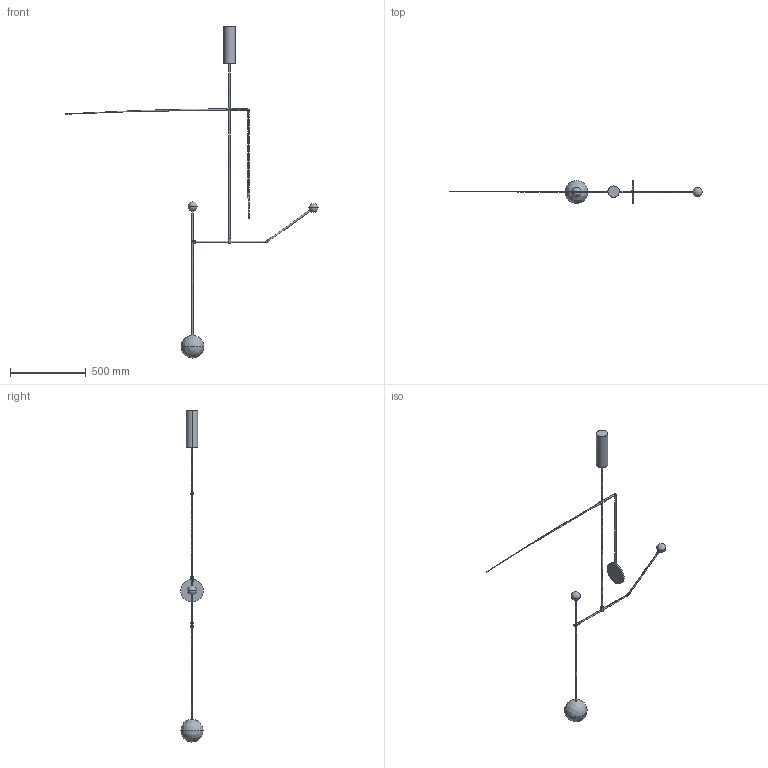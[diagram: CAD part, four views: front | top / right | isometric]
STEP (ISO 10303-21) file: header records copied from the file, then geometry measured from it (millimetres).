
FILE_DESCRIPTION(/* description */ (''),/* implementation_level */ '2;1');
FILE_NAME(/* name */ 'MA - Mobile Chandelier 6 - 240V',/* time_stamp */ '2015-06-03T11:50:32+01:00',/* author */ (''),/* organization */ (''),/* preprocessor_version */ 'ST-DEVELOPER v15',/* originating_system */ '',/* authorisation */ '');
FILE_SCHEMA (('CONFIG_CONTROL_DESIGN'));
Length unit declared in the file: millimetre
Products named in the file (1): Document
Bounding box: 1662.15 x 151.22 x 2189.06 mm (x, y, z)
Surface area: 333860.2 mm2 (no closed solid volume)
Topology: 0 solids, 1 shells, 57 faces, 135 edges, 80 vertices
Faces by surface type: bspline 44, plane 13
Entity records: 3410 total; most frequent: CARTESIAN_POINT 2610, ORIENTED_EDGE 244, EDGE_CURVE 123, VERTEX_POINT 80, EDGE_LOOP 70, ADVANCED_FACE 57, FACE_OUTER_BOUND 57, B_SPLINE_CURVE_WITH_KNOTS 23
